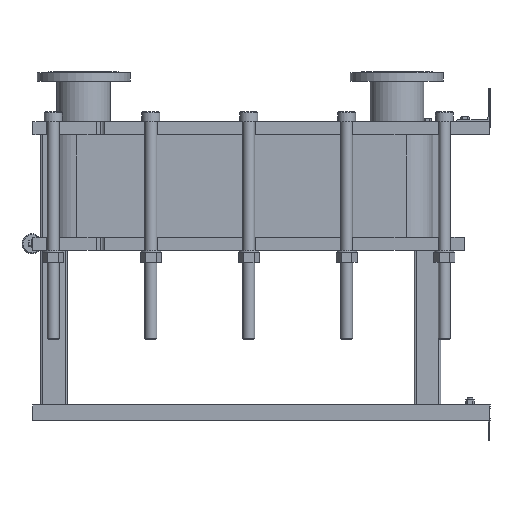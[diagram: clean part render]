
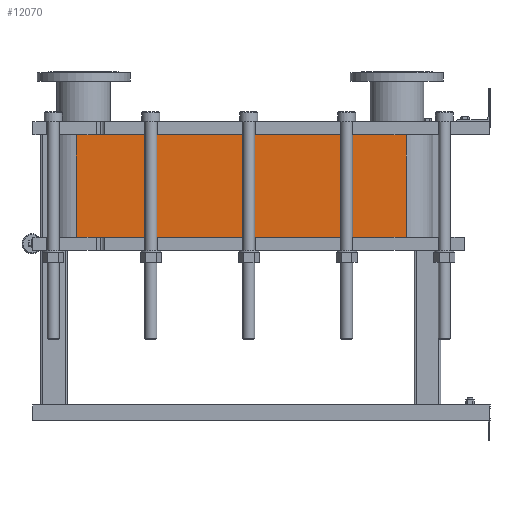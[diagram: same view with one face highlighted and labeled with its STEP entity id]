
A CAD part, left-side view. The second image highlights one B-rep face of the part: STEP entity #12070.
In plain terms, the highlighted planar face has unit normal (-1, 0, 0).
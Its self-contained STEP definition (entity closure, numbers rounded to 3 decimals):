
#1064=LINE('',#21140,#2164);
#1065=LINE('',#21144,#2165);
#1066=LINE('',#21146,#2166);
#1067=LINE('',#21147,#2167);
#2164=VECTOR('',#15790,10.);
#2165=VECTOR('',#15795,10.);
#2166=VECTOR('',#15796,10.);
#2167=VECTOR('',#15797,10.);
#3304=FACE_OUTER_BOUND('',#4091,.T.);
#4091=EDGE_LOOP('',(#9793,#9794,#9795,#9796));
#5677=VERTEX_POINT('',#21137);
#5678=VERTEX_POINT('',#21139);
#5679=VERTEX_POINT('',#21143);
#5680=VERTEX_POINT('',#21145);
#7118=EDGE_CURVE('',#5678,#5677,#1064,.T.);
#7120=EDGE_CURVE('',#5677,#5679,#1065,.T.);
#7121=EDGE_CURVE('',#5680,#5679,#1066,.T.);
#7122=EDGE_CURVE('',#5680,#5678,#1067,.T.);
#9793=ORIENTED_EDGE('',*,*,#7120,.T.);
#9794=ORIENTED_EDGE('',*,*,#7121,.F.);
#9795=ORIENTED_EDGE('',*,*,#7122,.T.);
#9796=ORIENTED_EDGE('',*,*,#7118,.T.);
#11441=PLANE('',#13191);
#12070=ADVANCED_FACE('',(#3304),#11441,.T.);
#13191=AXIS2_PLACEMENT_3D('',#21142,#15793,#15794);
#15790=DIRECTION('',(0.,0.,-1.));
#15793=DIRECTION('center_axis',(-1.,0.,0.));
#15794=DIRECTION('ref_axis',(0.,1.,0.));
#15795=DIRECTION('',(0.,-1.,0.));
#15796=DIRECTION('',(0.,0.,-1.));
#15797=DIRECTION('',(0.,1.,0.));
#21137=CARTESIAN_POINT('',(-248.152,1243.818,-307.05));
#21139=CARTESIAN_POINT('',(-248.152,1243.818,0.));
#21140=CARTESIAN_POINT('',(-248.152,1243.818,0.));
#21142=CARTESIAN_POINT('Origin',(-248.152,251.818,0.));
#21143=CARTESIAN_POINT('',(-248.152,251.818,-307.05));
#21144=CARTESIAN_POINT('',(-248.152,499.818,-307.05));
#21145=CARTESIAN_POINT('',(-248.152,251.818,0.));
#21146=CARTESIAN_POINT('',(-248.152,251.818,0.));
#21147=CARTESIAN_POINT('',(-248.152,251.818,0.));
